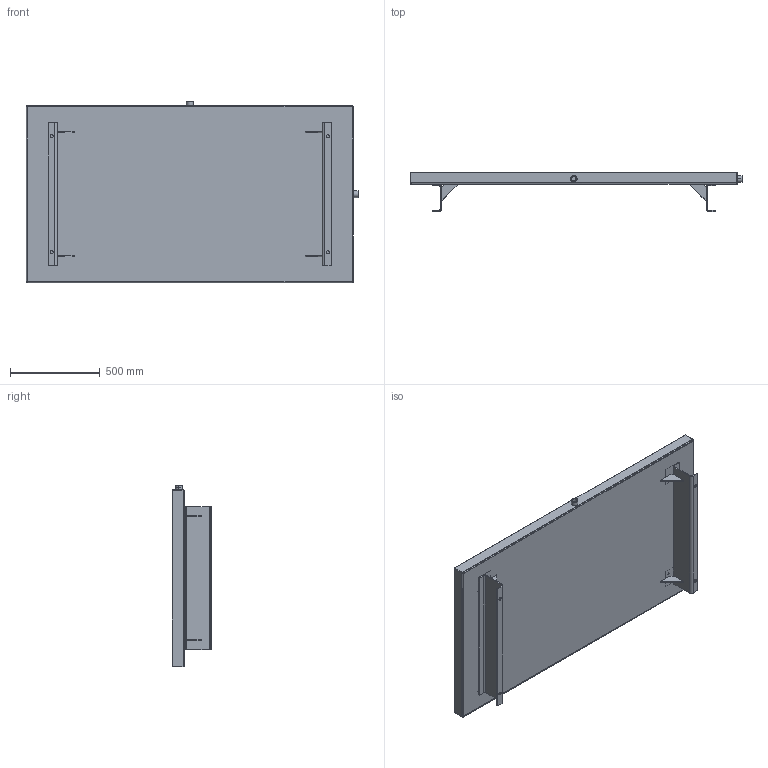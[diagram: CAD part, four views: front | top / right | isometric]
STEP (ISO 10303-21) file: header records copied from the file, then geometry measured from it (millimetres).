
FILE_DESCRIPTION (( 'STEP AP203' ), '1' );
FILE_NAME ('RJDPR080.STEP', '2015-01-07T19:36:21', ( '' ), ( '' ), 'SwSTEP 2.0', 'SolidWorks 2014', '' );
FILE_SCHEMA (( 'CONFIG_CONTROL_DESIGN' ));
Length unit declared in the file: inch
Products named in the file (1): RJDPR080
Bounding box: 1854.2 x 219.07 x 1016 mm (x, y, z)
Surface area: 5147618.8 mm2 (no closed solid volume)
Topology: 0 solids, 13 shells, 168 faces, 413 edges, 262 vertices
Faces by surface type: plane 93, cylinder 62, bspline 7, cone 6
Entity records: 5454 total; most frequent: CARTESIAN_POINT 1421, DIRECTION 847, ORIENTED_EDGE 728, EDGE_CURVE 413, AXIS2_PLACEMENT_3D 288, LINE 271, VECTOR 271, VERTEX_POINT 262
